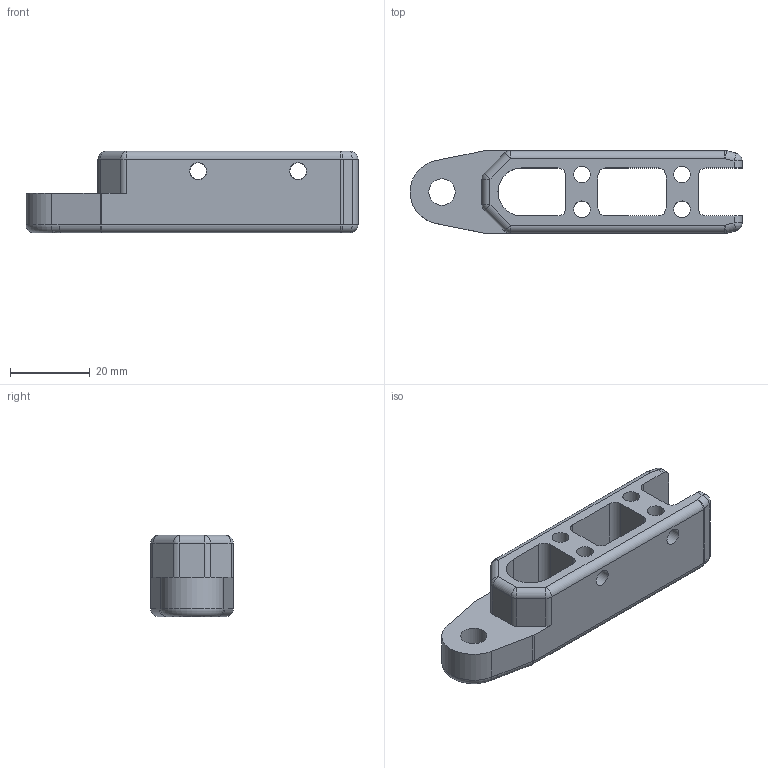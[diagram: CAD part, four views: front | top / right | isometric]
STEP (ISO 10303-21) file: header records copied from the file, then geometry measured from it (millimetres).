
FILE_DESCRIPTION (( 'STEP AP214' ), '1' );
FILE_NAME ('N15605-SUP.step', '2024-12-03T16:25:41', ( '' ), ( '' ), 'SwSTEP 2.0', 'SolidWorks 2023', '' );
FILE_SCHEMA (( 'AUTOMOTIVE_DESIGN' ));
Length unit declared in the file: millimetre
Products named in the file (1): N15605-SUP
Bounding box: 83 x 20.7 x 20.4 mm (x, y, z)
Volume: 16930 mm3; surface area: 9385.8 mm2
Topology: 1 solids, 1 shells, 86 faces, 240 edges, 139 vertices
Faces by surface type: cylinder 44, plane 24, sphere 14, bspline 2, cone 1, torus 1
Full cylindrical faces by diameter (mm): 4.2 x6, 6.6 x1
Entity records: 3116 total; most frequent: CARTESIAN_POINT 1000, DIRECTION 461, ORIENTED_EDGE 406, EDGE_CURVE 203, AXIS2_PLACEMENT_3D 179, VERTEX_POINT 126, EDGE_LOOP 119, VECTOR 103
